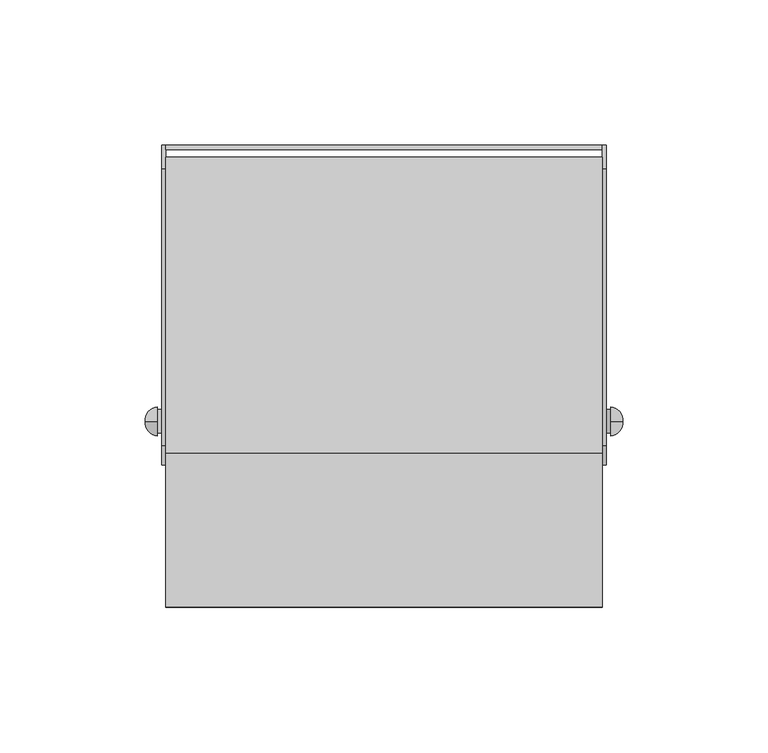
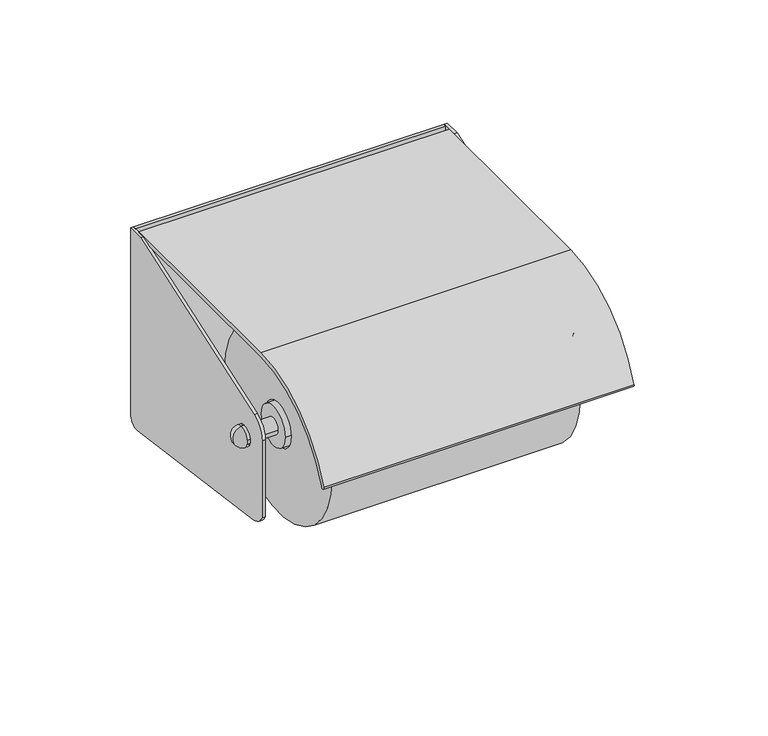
"""IFC4 building model written with IfcOpenShell, lengths in millimetres: flow terminal geometry, BIMHealth-Toilet-Roll-Holder-LOD2A-v1 : BIMHealth-Toilet-Roll-Holder-LOD2A-v1."""

from ifc_helpers import new_model, si_unit, point, frame, frame_2d, origin, place, context, project, spatial, polyline, circle_curve, ellipse_curve, trimmed, segment, composite_curve, outline, extrude, source, transform, mapped, element, save
from ifc_brep_helpers import plane_surface, revolved_surface, advanced_brep


def flow_terminal_e6a3ae2a(model_context):
    return source(origin(), model_context, "Body", "SolidModel", [
        extrude(outline(composite_curve([segment(trimmed(circle_curve(frame_2d((-94.9681614, 287.7168899)), 45.0), [point((-49.9681614, 287.7168899))], [point((-139.9681614, 287.7168899))], False, "CARTESIAN"), True, "CONTINUOUS"), segment(trimmed(circle_curve(frame_2d((-94.9681614, 287.7168899)), 45.0), [point((-139.9681614, 287.7168899))], [point((-49.9681614, 287.7168899))], False, "CARTESIAN"), True, "CONTINUOUS")], self_intersect=False), holes=[composite_curve([segment(trimmed(circle_curve(frame_2d((-94.9681614, 287.7168899)), 10.779174), [point((-84.1889874, 287.7168899))], [point((-105.7473354, 287.7168899))], True, "CARTESIAN"), True, "CONTINUOUS"), segment(trimmed(circle_curve(frame_2d((-94.9681614, 287.7168899)), 10.779174), [point((-105.7473354, 287.7168899))], [point((-84.1889874, 287.7168899))], True, "CARTESIAN"), True, "CONTINUOUS")], self_intersect=False)]), frame((15.0, 0.0, 0.0), z_axis=(1.0, 0.0, 0.0), x_axis=(0.0, 1.0, 0.0)), (0.0, 0.0, 1.0), 120.0),
        advanced_brep(
        [(153.0, -94.9681614, 287.7793899), (153.0, -94.9681614, 292.7793899), (153.0, -94.9681614, 282.7793899), (157.0, -94.9681614, 287.7793899)],
        [
            (0, 1),
            (1, 2, circle_curve(frame((153.0, -94.9681614, 287.7793899), z_axis=(-1.0, 0.0, 0.0), x_axis=(0.0, 0.0, 1.0)), 5.0)),
            (2, 0),
            (2, 1, circle_curve(frame((153.0, -94.9681614, 287.7793899), z_axis=(-1.0, 0.0, 0.0), x_axis=(0.0, 0.0, 1.0)), 5.0)),
            (1, 3, circle_curve(frame((152.6726211, -94.9681614, 288.4174868), z_axis=(0.0, 1.0, 0.0), x_axis=(-1.0, 0.0, 0.0)), 4.3741715)),
            (3, 2, circle_curve(frame((152.6726211, -94.9681614, 287.141293), z_axis=(0.0, 1.0, 0.0), x_axis=(-1.0, 0.0, 0.0)), 4.3741715)),
        ],
        [
            plane_surface(frame((153.0, -94.9681614, 287.7793899), z_axis=(-1.0, 0.0, 0.0), x_axis=(0.0, 0.0, 1.0))),
            revolved_surface(trimmed(ellipse_curve(frame((152.6726211, -94.9681614, 288.4174868), z_axis=(0.0, -1.0, 0.0), x_axis=(-1.0, 0.0, 0.0)), 4.3741715, 4.3741715), [point((157.0, -94.9681614, 287.7793899))], [point((153.0, -94.9681614, 292.7793899))], True, "CARTESIAN"), (153.0, -94.9681614, 287.7793899), (-1.0, 0.0, 0.0)),
        ],
        [
            (0, [[1, 2, 3]]),
            (0, [[-3, 4, -1]]),
            (1, [[-2, 5, 6]]),
            (1, [[-4, -6, -5]]),
        ],
    ),
        advanced_brep(
        [(-3.0, -94.9681614, 282.7793899), (-3.0, -94.9681614, 292.7793899), (-3.0, -94.9681614, 287.7793899), (-7.0, -94.9681614, 287.7793899)],
        [
            (0, 1, circle_curve(frame((-3.0, -94.9681614, 287.7793899), z_axis=(1.0, 0.0, 0.0), x_axis=(0.0, 0.0, 1.0)), 5.0)),
            (1, 2),
            (2, 0),
            (1, 0, circle_curve(frame((-3.0, -94.9681614, 287.7793899), z_axis=(1.0, 0.0, 0.0), x_axis=(0.0, 0.0, 1.0)), 5.0)),
            (3, 1, circle_curve(frame((-2.6726211, -94.9681614, 288.4174868), z_axis=(0.0, 1.0, 0.0), x_axis=(1.0, 0.0, 0.0)), 4.3741715)),
            (0, 3, circle_curve(frame((-2.6726211, -94.9681614, 287.141293), z_axis=(0.0, 1.0, 0.0), x_axis=(1.0, 0.0, 0.0)), 4.3741715)),
        ],
        [
            plane_surface(frame((-3.0, -94.9681614, 287.7793899), z_axis=(1.0, 0.0, 0.0), x_axis=(0.0, 0.0, 1.0))),
            revolved_surface(trimmed(ellipse_curve(frame((-2.6726211, -94.9681614, 288.4174868), z_axis=(0.0, -1.0, 0.0), x_axis=(1.0, 0.0, 0.0)), 4.3741715, 4.3741715), [point((-3.0, -94.9681614, 292.7793899))], [point((-7.0, -94.9681614, 287.7793899))], True, "CARTESIAN"), (-3.0, -94.9681614, 287.7793899), (-1.0, 0.0, 0.0)),
        ],
        [
            (0, [[1, 2, 3]]),
            (0, [[4, -3, -2]]),
            (1, [[5, -1, 6]]),
            (1, [[-6, -4, -5]]),
        ],
    ),
        extrude(outline(composite_curve([segment(trimmed(circle_curve(frame_2d((-94.9681614, 287.7793899)), 4.0), [point((-90.9681614, 287.7793899))], [point((-98.9681614, 287.7793899))], False, "CARTESIAN"), True, "CONTINUOUS"), segment(trimmed(circle_curve(frame_2d((-94.9681614, 287.7793899)), 4.0), [point((-98.9681614, 287.7793899))], [point((-90.9681614, 287.7793899))], False, "CARTESIAN"), True, "CONTINUOUS")], self_intersect=False)), frame((137.5, 0.0, 0.0), z_axis=(1.0, 0.0, 0.0), x_axis=(0.0, 1.0, 0.0)), (0.0, 0.0, 1.0), 15.5),
        extrude(outline(composite_curve([segment(trimmed(circle_curve(frame_2d((-94.9681614, 287.7793899)), 4.0), [point((-90.9681614, 287.7793899))], [point((-98.9681614, 287.7793899))], False, "CARTESIAN"), True, "CONTINUOUS"), segment(trimmed(circle_curve(frame_2d((-94.9681614, 287.7793899)), 4.0), [point((-98.9681614, 287.7793899))], [point((-90.9681614, 287.7793899))], False, "CARTESIAN"), True, "CONTINUOUS")], self_intersect=False)), frame((-3.0, 0.0, 0.0), z_axis=(1.0, 0.0, 0.0), x_axis=(0.0, 1.0, 0.0)), (0.0, 0.0, 1.0), 15.5),
        extrude(outline(composite_curve([segment(trimmed(circle_curve(frame_2d((-94.9681614, 287.7793899)), 10.0), [point((-84.9681614, 287.7793899))], [point((-104.9681614, 287.7793899))], False, "CARTESIAN"), True, "CONTINUOUS"), segment(trimmed(circle_curve(frame_2d((-94.9681614, 287.7793899)), 10.0), [point((-104.9681614, 287.7793899))], [point((-84.9681614, 287.7793899))], False, "CARTESIAN"), True, "CONTINUOUS")], self_intersect=False)), frame((12.5, 0.0, 0.0), z_axis=(1.0, 0.0, 0.0), x_axis=(0.0, 1.0, 0.0)), (0.0, 0.0, 1.0), 125.0),
        extrude(outline(composite_curve([segment(polyline([(-106.0354897, 336.0865394), (-4.085748, 336.0865394), (-4.085748, 334.0865394), (-106.0354897, 334.0865394)]), True, "CONTINUOUS"), segment(trimmed(circle_curve(frame_2d((-106.0354897, 279.5674441)), 54.5190953), [point((-106.0354897, 334.0865394))], [point((-157.0895845, 298.6936345))], True, "CARTESIAN"), True, "CONTINUOUS"), segment(trimmed(circle_curve(frame_2d((-158.0260288, 299.0444509)), 1.0), [point((-157.0895845, 298.6936345))], [point((-158.9624731, 299.3952672))], False, "CARTESIAN"), True, "CONTINUOUS"), segment(trimmed(circle_curve(frame_2d((-106.0354897, 279.5674441)), 56.5190953), [point((-158.9624731, 299.3952672))], [point((-106.0354897, 336.0865394))], False, "CARTESIAN"), True, "CONTINUOUS")], self_intersect=False)), frame((0.0, 0.0, 0.0), z_axis=(1.0, 0.0, 0.0), x_axis=(0.0, 1.0, 0.0)), (0.0, 0.0, 1.0), 150.0),
        extrude(outline(composite_curve([segment(trimmed(circle_curve(frame_2d((-5.0, 240.8888054)), 5.0), [point((0.0, 240.8888054))], [point((-5.6757869, 235.9346847))], False, "CARTESIAN"), True, "CONTINUOUS"), segment(polyline([(-5.6757869, 235.9346847), (-102.4268044, 249.1324001)]), True, "CONTINUOUS"), segment(trimmed(circle_curve(frame_2d((-101.0752305, 259.0406415)), 10.0), [point((-102.4268044, 249.1324001))], [point((-110.0, 254.5297114))], False, "CARTESIAN"), True, "CONTINUOUS"), segment(polyline([(-110.0, 254.5297114), (-110.0, 293.891243)]), True, "CONTINUOUS"), segment(trimmed(circle_curve(frame_2d((-100.0, 293.891243)), 10.0), [point((-110.0, 293.891243))], [point((-103.2556815, 303.3464287))], False, "CARTESIAN"), True, "CONTINUOUS"), segment(polyline([(-103.2556815, 303.3464287), (-8.171496, 336.0865394), (0.0, 336.0865394), (0.0, 240.8888054)]), True, "CONTINUOUS")], self_intersect=False), holes=[composite_curve([segment(trimmed(circle_curve(frame_2d((-94.9681614, 287.7793899)), 5.0), [point((-89.9681614, 287.7793899))], [point((-99.9681614, 287.7793899))], True, "CARTESIAN"), True, "CONTINUOUS"), segment(trimmed(circle_curve(frame_2d((-94.9681614, 287.7793899)), 5.0), [point((-99.9681614, 287.7793899))], [point((-89.9681614, 287.7793899))], True, "CARTESIAN"), True, "CONTINUOUS")], self_intersect=False)]), frame((150.0, 0.0, 0.0), z_axis=(1.0, 0.0, 0.0), x_axis=(0.0, 1.0, 0.0)), (0.0, 0.0, 1.0), 1.5),
        extrude(outline(polyline([(150.0, -1.5), (0.0, -1.5), (0.0, 0.0), (150.0, 0.0), (150.0, -1.5)])), frame((0.0, 0.0, 236.0865394), z_axis=(0.0, 0.0, 1.0), x_axis=(1.0, 0.0, 0.0)), (0.0, 0.0, 1.0), 100.0),
        extrude(outline(composite_curve([segment(trimmed(circle_curve(frame_2d((-5.0, 240.8888054)), 5.0), [point((0.0, 240.8888054))], [point((-5.6757869, 235.9346847))], False, "CARTESIAN"), True, "CONTINUOUS"), segment(polyline([(-5.6757869, 235.9346847), (-102.4268044, 249.1324001)]), True, "CONTINUOUS"), segment(trimmed(circle_curve(frame_2d((-101.0752305, 259.0406415)), 10.0), [point((-102.4268044, 249.1324001))], [point((-110.0, 254.5297114))], False, "CARTESIAN"), True, "CONTINUOUS"), segment(polyline([(-110.0, 254.5297114), (-110.0, 293.891243)]), True, "CONTINUOUS"), segment(trimmed(circle_curve(frame_2d((-100.0, 293.891243)), 10.0), [point((-110.0, 293.891243))], [point((-103.2556815, 303.3464287))], False, "CARTESIAN"), True, "CONTINUOUS"), segment(polyline([(-103.2556815, 303.3464287), (-8.171496, 336.0865394), (0.0, 336.0865394), (0.0, 240.8888054)]), True, "CONTINUOUS")], self_intersect=False), holes=[composite_curve([segment(trimmed(circle_curve(frame_2d((-94.9681614, 287.7793899)), 5.0), [point((-89.9681614, 287.7793899))], [point((-99.9681614, 287.7793899))], True, "CARTESIAN"), True, "CONTINUOUS"), segment(trimmed(circle_curve(frame_2d((-94.9681614, 287.7793899)), 5.0), [point((-99.9681614, 287.7793899))], [point((-89.9681614, 287.7793899))], True, "CARTESIAN"), True, "CONTINUOUS")], self_intersect=False)]), frame((-1.5, 0.0, 0.0), z_axis=(1.0, 0.0, 0.0), x_axis=(0.0, 1.0, 0.0)), (0.0, 0.0, 1.0), 1.5),
    ])


if __name__ == "__main__":
    model = new_model("IFC4")
    model_context = context("Model", 3, world=origin())
    ifc_project = project(units=[si_unit("LENGTHUNIT", "METRE", prefix="MILLI")], contexts=[model_context])
    site = spatial("IfcSite", under=ifc_project)
    building = spatial("IfcBuilding", under=site)
    placement = place(None, origin())
    flow_terminal_shape = flow_terminal_e6a3ae2a(model_context)
    element("IfcFlowTerminal", 1, ObjectType="BIMHealth-Toilet-Roll-Holder-LOD2A-v1 : BIMHealth-Toilet-Roll-Holder-LOD2A-v1", at=placement, inside=building, context=model_context, shape_type="MappedRepresentation", body=[
        mapped(flow_terminal_shape, transform((0.0, 0.0, 0.0), x_axis=(1.0, 0.0, 0.0), y_axis=(0.0, 1.0, 0.0), z_axis=(0.0, 0.0, 1.0))),
    ])
    save(model, "model.ifc")
